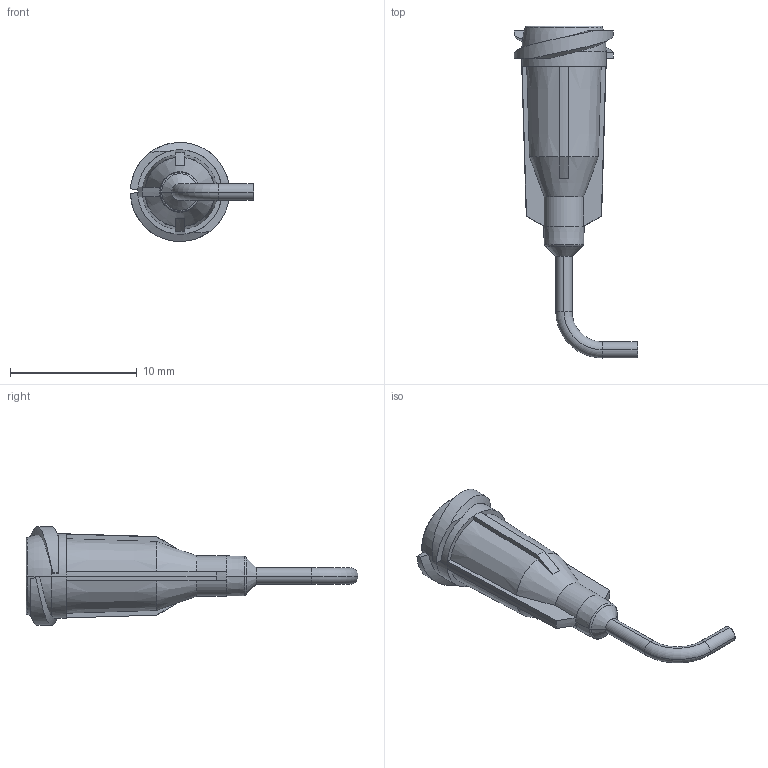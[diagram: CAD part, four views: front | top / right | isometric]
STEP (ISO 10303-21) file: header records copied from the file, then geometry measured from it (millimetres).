
FILE_DESCRIPTION (( 'STEP AP214' ), '1' );
FILE_NAME ('NORDSONEFD-7018120 TIP 18GA GP 033 90D GN.STEP', '2019-02-11T04:03:06', ( '' ), ( '' ), 'SwSTEP 2.0', 'SolidWorks 2019', '' );
FILE_SCHEMA (( 'AUTOMOTIVE_DESIGN' ));
Length unit declared in the file: inch
Products named in the file (1): NORDSONEFD-7018120 TIP 18GA GP 033 90D GN
Bounding box: 9.73 x 26.2 x 7.81 mm (x, y, z)
Volume: 268.9 mm3; surface area: 637.3 mm2
Topology: 1 solids, 1 shells, 128 faces, 294 edges, 172 vertices
Faces by surface type: torus 38, cylinder 30, plane 26, cone 22, bspline 12
Entity records: 4484 total; most frequent: CARTESIAN_POINT 1129, DIRECTION 638, ORIENTED_EDGE 588, EDGE_CURVE 294, AXIS2_PLACEMENT_3D 283, VERTEX_POINT 172, CIRCLE 166, EDGE_LOOP 134
